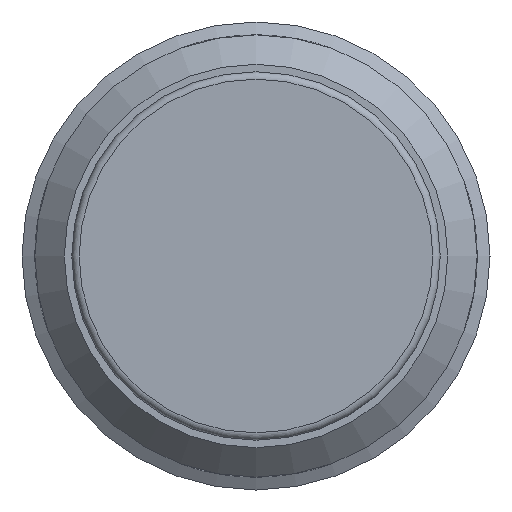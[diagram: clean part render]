
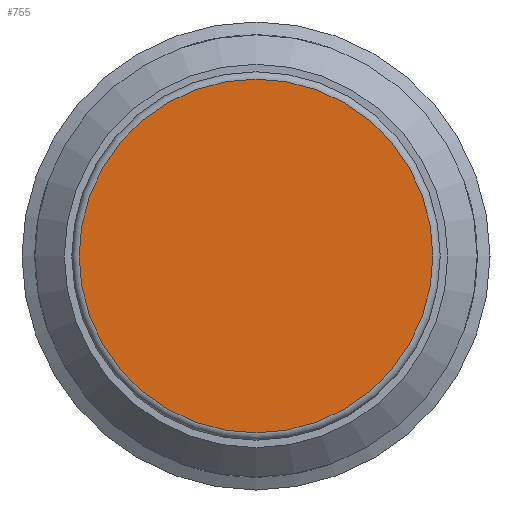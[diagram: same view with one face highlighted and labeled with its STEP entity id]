
A CAD part, left-side view. The second image highlights one B-rep face of the part: STEP entity #755.
In plain terms, the highlighted planar face has unit normal (-1, 0, 0).
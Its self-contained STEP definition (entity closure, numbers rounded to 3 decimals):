
#107=PLANE('',#821);
#161=FACE_OUTER_BOUND('',#215,.T.);
#215=EDGE_LOOP('',(#518));
#303=CIRCLE('',#820,4.8);
#342=VERTEX_POINT('',#1080);
#421=EDGE_CURVE('',#342,#342,#303,.T.);
#518=ORIENTED_EDGE('',*,*,#421,.T.);
#755=ADVANCED_FACE('',(#161),#107,.F.);
#820=AXIS2_PLACEMENT_3D('',#1081,#905,#906);
#821=AXIS2_PLACEMENT_3D('',#1082,#907,#908);
#905=DIRECTION('center_axis',(-1.,0.,0.));
#906=DIRECTION('ref_axis',(0.,1.,0.));
#907=DIRECTION('center_axis',(1.,0.,0.));
#908=DIRECTION('ref_axis',(0.,-1.,0.));
#1080=CARTESIAN_POINT('',(0.,-4.8,0.));
#1081=CARTESIAN_POINT('Origin',(0.,0.,0.));
#1082=CARTESIAN_POINT('Origin',(0.,0.,0.));
